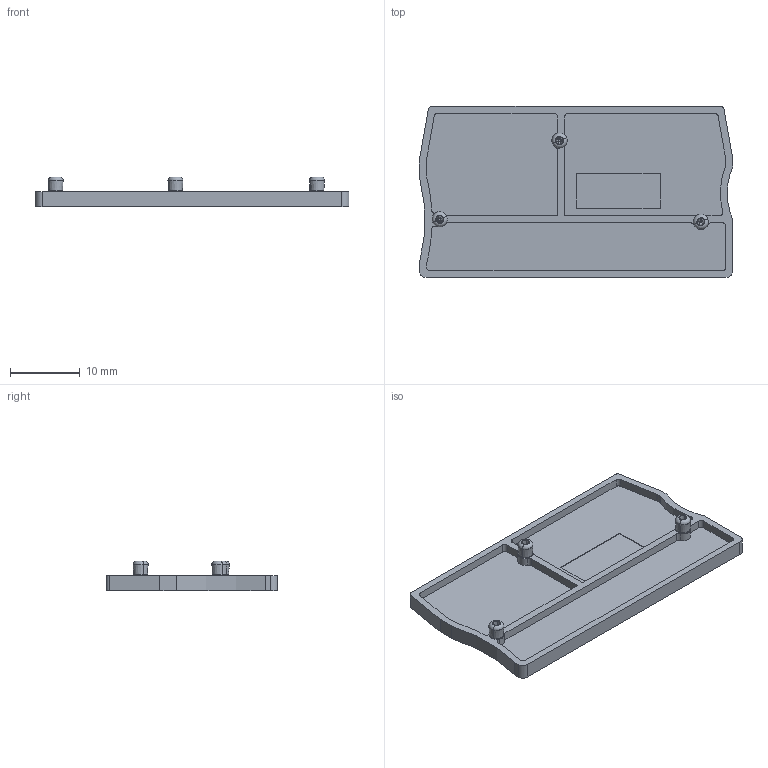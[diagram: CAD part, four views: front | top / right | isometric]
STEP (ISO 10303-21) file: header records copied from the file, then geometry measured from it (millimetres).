
FILE_DESCRIPTION(('Open CASCADE Model'),'2;1');
FILE_NAME('Open CASCADE Shape Model','2024-05-15T10:03:41',('Author'),( 'Open CASCADE'),'Open CASCADE STEP processor 6.5','Open CASCADE 6.5' ,'Unknown');
FILE_SCHEMA(('AUTOMOTIVE_DESIGN { 1 0 10303 214 1 1 1 1 }'));
Length unit declared in the file: millimetre
Products named in the file (120): CADSOFTTOOLS 2; CADSOFTTOOLS 2.1; CADSOFTTOOLS 2.2; CADSOFTTOOLS 2.3; CADSOFTTOOLS 2.4; CADSOFTTOOLS 2.5; CADSOFTTOOLS 2.6; CADSOFTTOOLS 2.7; CADSOFTTOOLS 2.8; CADSOFTTOOLS 2.9; CADSOFTTOOLS 2.10; CADSOFTTOOLS 2.11; CADSOFTTOOLS 2.12; CADSOFTTOOLS 2.13; CADSOFTTOOLS 2.14; CADSOFTTOOLS 2.15; CADSOFTTOOLS 2.16; CADSOFTTOOLS 2.17; CADSOFTTOOLS 2.18; CADSOFTTOOLS 2.19; CADSOFTTOOLS 2.20; CADSOFTTOOLS 2.21; CADSOFTTOOLS 2.22; CADSOFTTOOLS 2.23; CADSOFTTOOLS 2.24; CADSOFTTOOLS 2.25; CADSOFTTOOLS 2.26; CADSOFTTOOLS 2.27; CADSOFTTOOLS 2.28; CADSOFTTOOLS 2.29; CADSOFTTOOLS 2.30; CADSOFTTOOLS 2.31; CADSOFTTOOLS 2.32; CADSOFTTOOLS 2.33; CADSOFTTOOLS 2.34; CADSOFTTOOLS 2.35; CADSOFTTOOLS 2.36; CADSOFTTOOLS 2.37; CADSOFTTOOLS 2.38; CADSOFTTOOLS 2.39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
Assembly tree (119 placements, depth 2):
  CADSOFTTOOLS 2
    CADSOFTTOOLS 2.1
    CADSOFTTOOLS 2.2
    CADSOFTTOOLS 2.3
    CADSOFTTOOLS 2.4
    CADSOFTTOOLS 2.5
    CADSOFTTOOLS 2.6
    CADSOFTTOOLS 2.7
    CADSOFTTOOLS 2.8
    CADSOFTTOOLS 2.9
    CADSOFTTOOLS 2.10
    CADSOFTTOOLS 2.11
    CADSOFTTOOLS 2.12
    CADSOFTTOOLS 2.13
    CADSOFTTOOLS 2.14
    CADSOFTTOOLS 2.15
    CADSOFTTOOLS 2.16
    CADSOFTTOOLS 2.17
    CADSOFTTOOLS 2.18
    CADSOFTTOOLS 2.19
    CADSOFTTOOLS 2.20
    CADSOFTTOOLS 2.21
    CADSOFTTOOLS 2.22
    CADSOFTTOOLS 2.23
    CADSOFTTOOLS 2.24
    CADSOFTTOOLS 2.25
    CADSOFTTOOLS 2.26
    CADSOFTTOOLS 2.27
    CADSOFTTOOLS 2.28
    CADSOFTTOOLS 2.29
    CADSOFTTOOLS 2.30
    CADSOFTTOOLS 2.31
    CADSOFTTOOLS 2.32
    CADSOFTTOOLS 2.33
    CADSOFTTOOLS 2.34
    CADSOFTTOOLS 2.35
    CADSOFTTOOLS 2.36
    CADSOFTTOOLS 2.37
    CADSOFTTOOLS 2.38
    CADSOFTTOOLS 2.39
    CADSOFTTOOLS 2.40
    CADSOFTTOOLS 2.41
    CADSOFTTOOLS 2.42
    CADSOFTTOOLS 2.43
    CADSOFTTOOLS 2.44
    CADSOFTTOOLS 2.45
    CADSOFTTOOLS 2.46
    CADSOFTTOOLS 2.47
    CADSOFTTOOLS 2.48
    CADSOFTTOOLS 2.49
    CADSOFTTOOLS 2.50
    CADSOFTTOOLS 2.51
    CADSOFTTOOLS 2.52
    CADSOFTTOOLS 2.53
    CADSOFTTOOLS 2.54
    CADSOFTTOOLS 2.55
    CADSOFTTOOLS 2.56
    CADSOFTTOOLS 2.57
    CADSOFTTOOLS 2.58
    CADSOFTTOOLS 2.59
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Bounding box: 45.05 x 24.55 x 4.3 mm (x, y, z)
Surface area: 2744.7 mm2 (no closed solid volume)
Topology: 0 solids, 119 shells, 119 faces, 602 edges, 602 vertices
Faces by surface type: cylinder 48, plane 41, cone 12, bspline 12, torus 6
Entity records: 16369 total; most frequent: CARTESIAN_POINT 6622, DIRECTION 1559, ORIENTED_EDGE 602, EDGE_CURVE 602, VERTEX_POINT 602, SURFACE_CURVE 602, PCURVE 602, DEFINITIONAL_REPRESENTATION 602
